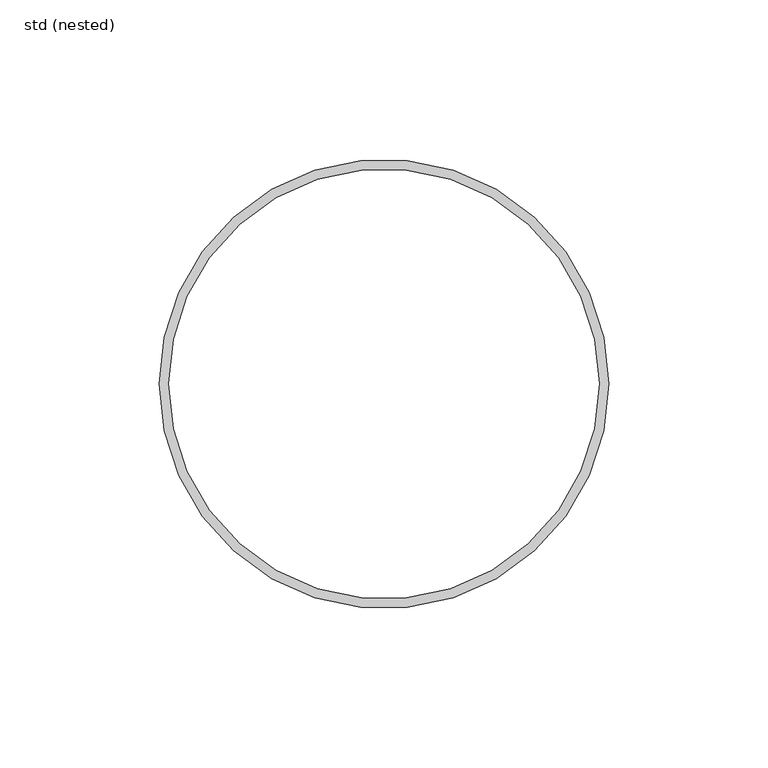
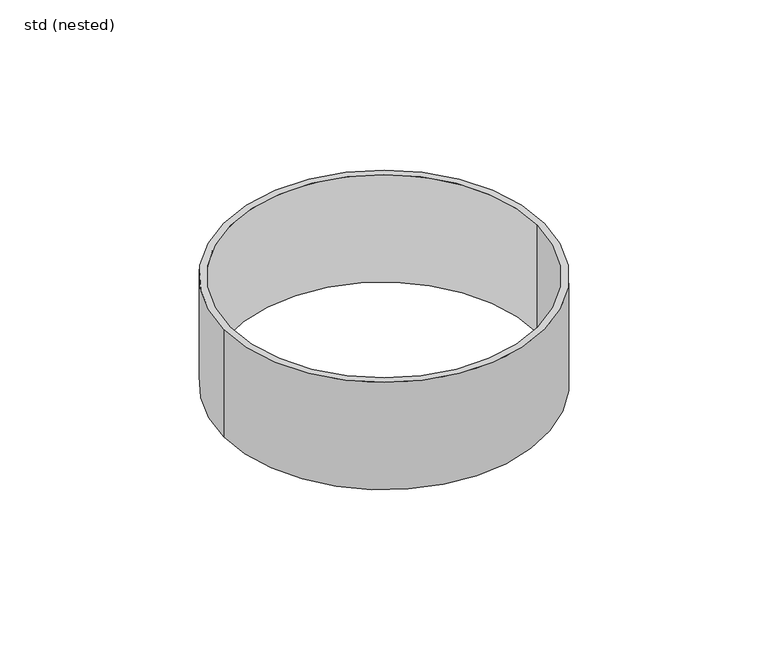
"""IFC4 building model written with IfcOpenShell, lengths in millimetres: pipe fitting geometry, ZZZ_do not use_PIF_ST_WPB_GM-X compound pipe clamp_ACO : std (nested)."""

from ifc_helpers import new_model, si_unit, point, frame, origin, origin_2d, place, context, project, spatial, circle_curve, trimmed, segment, composite_curve, outline, extrude, source, transform, mapped, element, save


def std_nested_11fffc4d(model_context):
    return source(origin(), model_context, "Body", "SweptSolid", [
        extrude(outline(composite_curve([segment(trimmed(circle_curve(origin_2d(), 70.5), [point((70.5, 0.0))], [point((-70.5, 0.0))], False, "CARTESIAN"), True, "CONTINUOUS"), segment(trimmed(circle_curve(origin_2d(), 70.5), [point((-70.5, 0.0))], [point((70.5, 0.0))], False, "CARTESIAN"), True, "CONTINUOUS")], self_intersect=False), holes=[composite_curve([segment(trimmed(circle_curve(origin_2d(), 67.5), [point((67.5, 0.0))], [point((-67.5, 0.0))], True, "CARTESIAN"), True, "CONTINUOUS"), segment(trimmed(circle_curve(origin_2d(), 67.5), [point((-67.5, 0.0))], [point((67.5, 0.0))], True, "CARTESIAN"), True, "CONTINUOUS")], self_intersect=False)]), frame((0.0, 0.0, -72.5), z_axis=(0.0, 0.0, 1.0), x_axis=(1.0, 0.0, 0.0)), (0.0, 0.0, 1.0), 50.0),
    ])


if __name__ == "__main__":
    model = new_model("IFC4")
    model_context = context("Model", 3, world=origin())
    ifc_project = project(units=[si_unit("LENGTHUNIT", "METRE", prefix="MILLI")], contexts=[model_context])
    site = spatial("IfcSite", under=ifc_project)
    building = spatial("IfcBuilding", under=site)
    placement = place(None, origin())
    std_nested_shape = std_nested_11fffc4d(model_context)
    element("IfcPipeFitting", 1, ObjectType="ZZZ_do not use_PIF_ST_WPB_GM-X compound pipe clamp_ACO : std (nested)", at=placement, inside=building, context=model_context, shape_type="MappedRepresentation", body=[
        mapped(std_nested_shape, transform((0.0, 0.0, 0.0), x_axis=(1.0, 0.0, 0.0), y_axis=(0.0, 1.0, 0.0), z_axis=(0.0, 0.0, 1.0))),
    ])
    save(model, "model.ifc")
